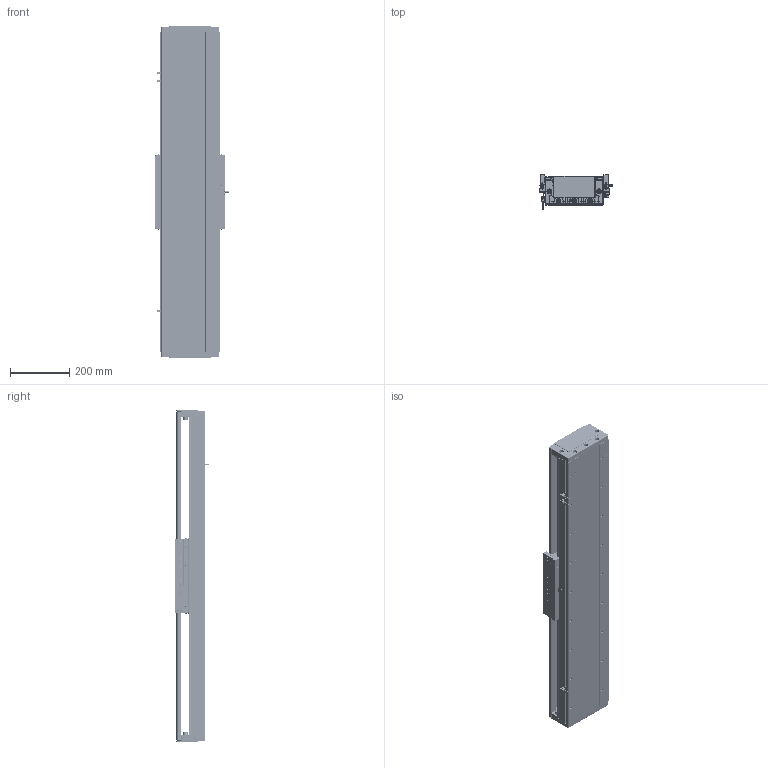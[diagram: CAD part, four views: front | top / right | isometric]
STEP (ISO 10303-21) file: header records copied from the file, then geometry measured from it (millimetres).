
FILE_DESCRIPTION (( 'STEP AP203' ), '1' );
FILE_NAME ('DA-C195-C3-T780-C010-0.2 眻盄萇儂.STEP', '2025-08-15T01:41:57', ( '' ), ( '' ), 'SwSTEP 2.0', 'SolidWorks 2019', '' );
FILE_SCHEMA (( 'CONFIG_CONTROL_DESIGN' ));
Length unit declared in the file: millimetre
Products named in the file (12): DA165-GYP-00 光电感应片(默认); MS200 棠掑喜S315-T240; 66156-0001-003-00 裔啣; IU-CU195-L 菁釱絳寢; PM-T45ㄗ侂狟ㄘ; IU-CU195-L-00 菁釱(L1080); DA195-DG-H-00  端盖（压铸镂空版）; LMT黍杅芛; CU195-C3賑輸-俋楷; 葩璃 DA95-GT-T-00; DA-C195-C3-T780-C010-0.2 眻盄萇儂; DA95-HXJ-00 遣喳砎蝶
Assembly tree (20 placements, depth 3):
  DA-C195-C3-T780-C010-0.2 眻盄萇儂
    IU-CU195-L 菁釱絳寢
      IU-CU195-L-00 菁釱(L1080)
      葩璃 DA95-GT-T-00  x4
    LMT黍杅芛
    MS200 棠掑喜S315-T240
    PM-T45ㄗ侂狟ㄘ  x3
    DA165-GYP-00 光电感应片(默认)
    DA195-DG-H-00  端盖（压铸镂空版）  x2
    DA95-HXJ-00 遣喳砎蝶  x4
    66156-0001-003-00 裔啣
    CU195-C3賑輸-俋楷
Bounding box: 248 x 115.6 x 1120 mm (x, y, z)
Volume: 8332793.1 mm3; surface area: 2347762.9 mm2
Topology: 78 solids, 118 shells, 5155 faces, 13192 edges, 8019 vertices
Faces by surface type: cylinder 2224, plane 1597, bspline 710, cone 544, torus 44, sphere 36
Entity records: 141967 total; most frequent: CARTESIAN_POINT 43933, ORIENTED_EDGE 20470, DIRECTION 19694, EDGE_CURVE 10235, AXIS2_PLACEMENT_3D 7323, VERTEX_POINT 6449, LINE 5048, VECTOR 5048
